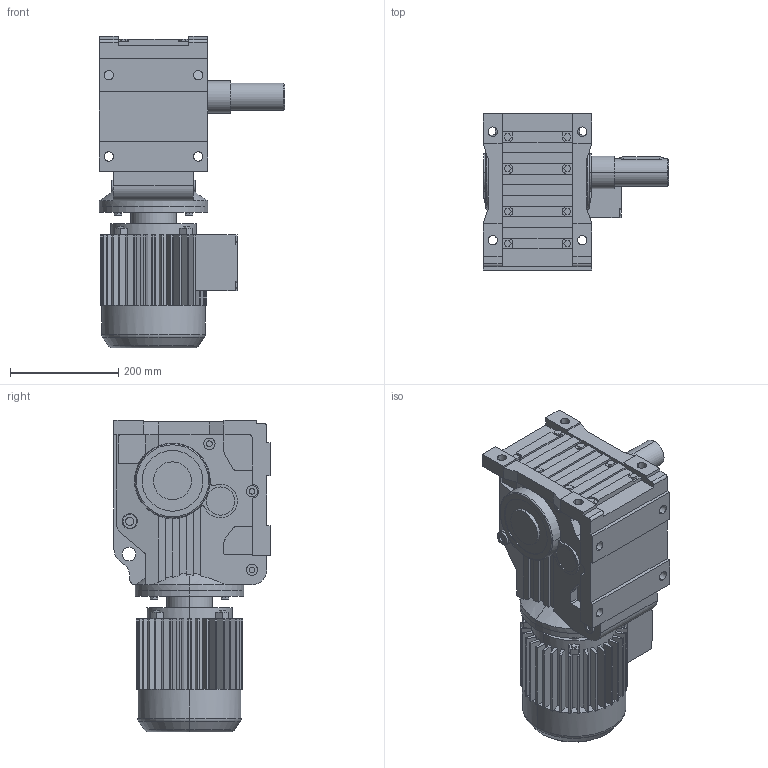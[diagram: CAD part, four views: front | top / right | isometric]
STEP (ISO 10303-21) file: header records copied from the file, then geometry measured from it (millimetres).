
FILE_DESCRIPTION(('Open CASCADE Model'),'2;1');
FILE_NAME('Open CASCADE Shape Model','2021-06-03T10:42:08',('Author'),( 'Open CASCADE'),'Open CASCADE STEP processor 6.3','Open CASCADE 6.3' ,'Unknown');
FILE_SCHEMA(('AUTOMOTIVE_DESIGN_CC2 { 1 2 10303 214 -1 1 5 4 }'));
Length unit declared in the file: millimetre
Products named in the file (4): 1_K77DT90-A; K37‵157_77.step; 萇儂_200-DT90-261-346-197-154.step; す瑩妗陑粣K_77.step
Assembly tree (3 placements, depth 2):
  1_K77DT90-A
    K37‵157_77.step
    萇儂_200-DT90-261-346-197-154.step
    す瑩妗陑粣K_77.step
Bounding box: 342 x 288 x 575 mm (x, y, z)
Volume: 19883554.3 mm3; surface area: 1000310.9 mm2
Topology: 3 solids, 3 shells, 841 faces, 2214 edges, 1436 vertices
Faces by surface type: plane 585, cylinder 231, cone 17, torus 8
Entity records: 57909 total; most frequent: CARTESIAN_POINT 15816, DIRECTION 7261, ORIENTED_EDGE 4424, PCURVE 4424, DEFINITIONAL_REPRESENTATION 4424, LINE 3951, VECTOR 3951, EDGE_CURVE 2212
